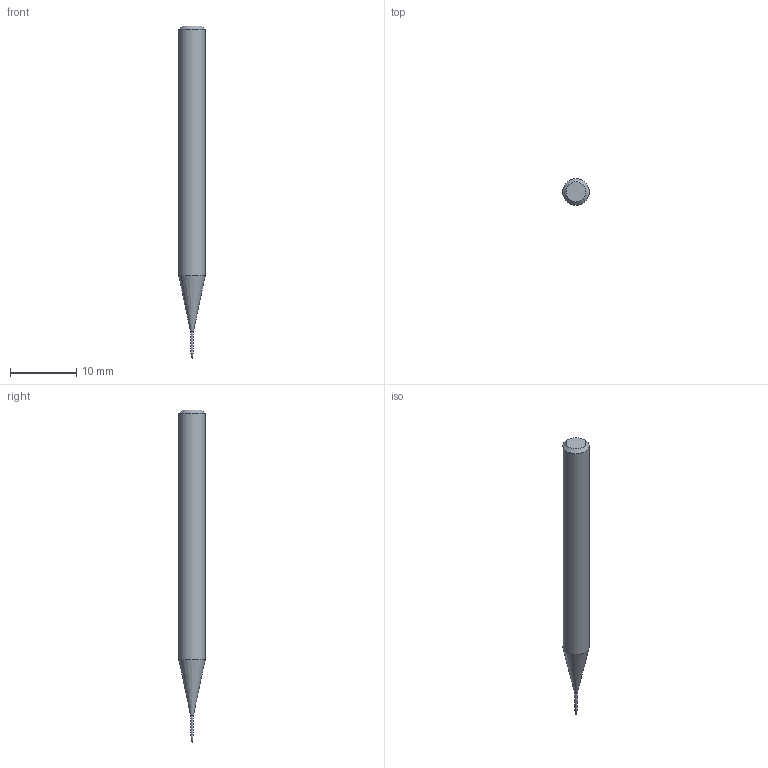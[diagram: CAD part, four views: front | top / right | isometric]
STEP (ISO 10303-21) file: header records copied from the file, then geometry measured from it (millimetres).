
FILE_DESCRIPTION((''),'2;1');
FILE_NAME('C:\Users\nsx150\AppData\Local\Temp\Mastercam 2021\SNAKH10GOD\TEMP.step','2021-10-21T13:30:48',(''),(''),'STEP Write','Mastercam 2021 ... CNC Software, Inc.','');
FILE_SCHEMA(('AUTOMOTIVE_DESIGN'));
Length unit declared in the file: millimetre
Products named in the file (1): None
Bounding box: 4 x 4 x 50 mm (x, y, z)
Volume: 510.5 mm3; surface area: 545.1 mm2
Topology: 2 solids, 2 shells, 10 faces, 16 edges, 9 vertices
Faces by surface type: plane 3, cylinder 3, cone 3, sphere 1
Full cylindrical faces by diameter (mm): 0.295 x1, 0.3 x1, 4 x1
Entity records: 232 total; most frequent: DIRECTION 40, CARTESIAN_POINT 28, AXIS2_PLACEMENT_3D 20, ORIENTED_EDGE 16, EDGE_LOOP 16, STYLED_ITEM 13, ADVANCED_FACE 10, FACE_BOUND 9
